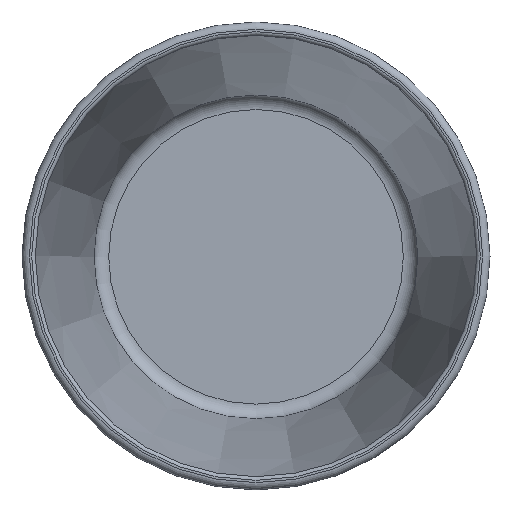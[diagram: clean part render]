
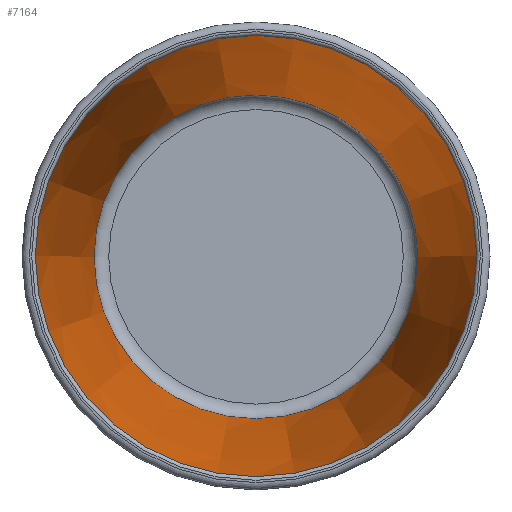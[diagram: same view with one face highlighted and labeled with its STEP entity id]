
A CAD part, top view. The second image highlights one B-rep face of the part: STEP entity #7164.
In plain terms, the highlighted conical face has half-angle 7.306 degrees and reference radius 25.818 mm.
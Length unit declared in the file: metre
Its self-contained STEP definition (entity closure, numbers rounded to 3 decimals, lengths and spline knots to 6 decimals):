
#80=CIRCLE('',#7677,0.026281);
#81=CIRCLE('',#7678,0.0358);
#98=CONICAL_SURFACE('',#7676,0.025818,0.128);
#1423=ORIENTED_EDGE('',*,*,#3711,.T.);
#1424=ORIENTED_EDGE('',*,*,#3712,.T.);
#3711=EDGE_CURVE('',#4855,#4855,#80,.F.);
#3712=EDGE_CURVE('',#4856,#4856,#81,.T.);
#4855=VERTEX_POINT('',#12163);
#4856=VERTEX_POINT('',#12165);
#5561=EDGE_LOOP('',(#1423));
#5562=EDGE_LOOP('',(#1424));
#6193=FACE_BOUND('',#5561,.T.);
#6194=FACE_BOUND('',#5562,.T.);
#7164=ADVANCED_FACE('',(#6193,#6194),#98,.F.);
#7676=AXIS2_PLACEMENT_3D('',#12161,#7829,#7830);
#7677=AXIS2_PLACEMENT_3D('',#12162,#7831,#7832);
#7678=AXIS2_PLACEMENT_3D('',#12164,#7833,#7834);
#7829=DIRECTION('',(0.,0.,1.));
#7830=DIRECTION('',(0.5,-0.866,0.));
#7831=DIRECTION('',(0.,0.,1.));
#7832=DIRECTION('',(1.,0.,0.));
#7833=DIRECTION('',(0.,0.,1.));
#7834=DIRECTION('',(1.,0.,0.));
#12161=CARTESIAN_POINT('',(0.,0.,0.00028));
#12162=CARTESIAN_POINT('',(0.,0.,0.003895));
#12163=CARTESIAN_POINT('',(0.026281,0.,0.003895));
#12164=CARTESIAN_POINT('',(0.,0.,0.07814));
#12165=CARTESIAN_POINT('',(0.0358,0.,0.07814));
